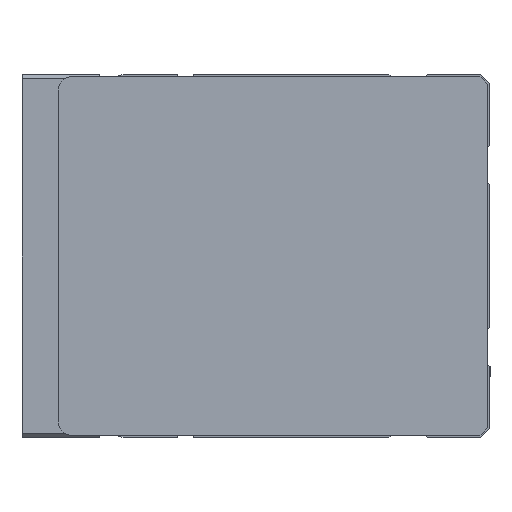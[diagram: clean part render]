
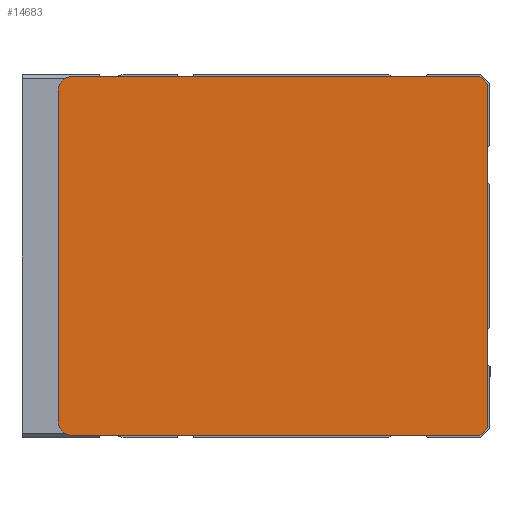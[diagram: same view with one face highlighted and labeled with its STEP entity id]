
A CAD part, left-side view. The second image highlights one B-rep face of the part: STEP entity #14683.
In plain terms, the highlighted planar face has unit normal (-1, 0, 0) as drawn and (0, 0, -1) by its records, which use the part's own axes.
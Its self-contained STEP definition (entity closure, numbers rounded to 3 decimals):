
#1281=CIRCLE('',#15610,3.);
#1282=CIRCLE('',#15613,3.);
#1682=FACE_OUTER_BOUND('',#2546,.T.);
#2546=EDGE_LOOP('',(#9994,#9995,#9996,#9997,#9998,#9999,#10000,#10001));
#3658=LINE('',#20879,#4956);
#3661=LINE('',#20884,#4959);
#3663=LINE('',#20888,#4961);
#3665=LINE('',#20892,#4963);
#3667=LINE('',#20896,#4965);
#3670=LINE('',#20904,#4968);
#4956=VECTOR('',#17001,89.793);
#4959=VECTOR('',#17006,2.414);
#4961=VECTOR('',#17010,75.586);
#4963=VECTOR('',#17014,2.414);
#4965=VECTOR('',#17018,89.793);
#4968=VECTOR('',#17027,73.);
#6242=VERTEX_POINT('',#20877);
#6243=VERTEX_POINT('',#20878);
#6244=VERTEX_POINT('',#20883);
#6245=VERTEX_POINT('',#20887);
#6246=VERTEX_POINT('',#20891);
#6247=VERTEX_POINT('',#20895);
#6248=VERTEX_POINT('',#20899);
#6249=VERTEX_POINT('',#20903);
#7729=EDGE_CURVE('',#6242,#6243,#3658,.T.);
#7732=EDGE_CURVE('',#6243,#6244,#3661,.T.);
#7734=EDGE_CURVE('',#6244,#6245,#3663,.T.);
#7736=EDGE_CURVE('',#6245,#6246,#3665,.T.);
#7738=EDGE_CURVE('',#6246,#6247,#3667,.T.);
#7740=EDGE_CURVE('',#6247,#6248,#1281,.T.);
#7742=EDGE_CURVE('',#6248,#6249,#3670,.T.);
#7744=EDGE_CURVE('',#6249,#6242,#1282,.T.);
#9994=ORIENTED_EDGE('',*,*,#7738,.F.);
#9995=ORIENTED_EDGE('',*,*,#7736,.F.);
#9996=ORIENTED_EDGE('',*,*,#7734,.F.);
#9997=ORIENTED_EDGE('',*,*,#7732,.F.);
#9998=ORIENTED_EDGE('',*,*,#7729,.F.);
#9999=ORIENTED_EDGE('',*,*,#7744,.F.);
#10000=ORIENTED_EDGE('',*,*,#7742,.F.);
#10001=ORIENTED_EDGE('',*,*,#7740,.F.);
#14172=PLANE('',#15623);
#14683=ADVANCED_FACE('',(#1682),#14172,.T.);
#15610=AXIS2_PLACEMENT_3D('',#20900,#17022,#17023);
#15613=AXIS2_PLACEMENT_3D('',#20907,#17031,#17032);
#15623=AXIS2_PLACEMENT_3D('',#20933,#17061,#17062);
#17001=DIRECTION('',(0.,-1.,0.));
#17006=DIRECTION('',(0.707,-0.707,0.));
#17010=DIRECTION('',(1.,0.,0.));
#17014=DIRECTION('',(0.707,0.707,0.));
#17018=DIRECTION('',(0.,1.,0.));
#17022=DIRECTION('center_axis',(0.,0.,
1.));
#17023=DIRECTION('ref_axis',(1.,0.,0.));
#17027=DIRECTION('',(-1.,0.,0.));
#17031=DIRECTION('center_axis',(0.,0.,
1.));
#17032=DIRECTION('ref_axis',(0.,1.,0.));
#17061=DIRECTION('center_axis',(0.,0.,
-1.));
#17062=DIRECTION('ref_axis',(-1.,0.,0.));
#20877=CARTESIAN_POINT('',(-78.5,92.,-638.));
#20878=CARTESIAN_POINT('',(-78.5,2.207,-638.));
#20879=CARTESIAN_POINT('',(-78.5,92.,-638.));
#20883=CARTESIAN_POINT('',(-76.793,0.5,-638.));
#20884=CARTESIAN_POINT('',(-78.5,2.207,-638.));
#20887=CARTESIAN_POINT('',(-1.207,0.5,-638.));
#20888=CARTESIAN_POINT('',(-76.793,0.5,-638.));
#20891=CARTESIAN_POINT('',(0.5,2.207,-638.));
#20892=CARTESIAN_POINT('',(-1.207,0.5,-638.));
#20895=CARTESIAN_POINT('',(0.5,92.,-638.));
#20896=CARTESIAN_POINT('',(0.5,2.207,-638.));
#20899=CARTESIAN_POINT('',(-2.5,95.,-638.));
#20900=CARTESIAN_POINT('Origin',(-2.5,92.,-638.));
#20903=CARTESIAN_POINT('',(-75.5,95.,-638.));
#20904=CARTESIAN_POINT('',(-2.5,95.,-638.));
#20907=CARTESIAN_POINT('Origin',(-75.5,92.,-638.));
#20933=CARTESIAN_POINT('Origin',(-39.,44.214,-638.));
